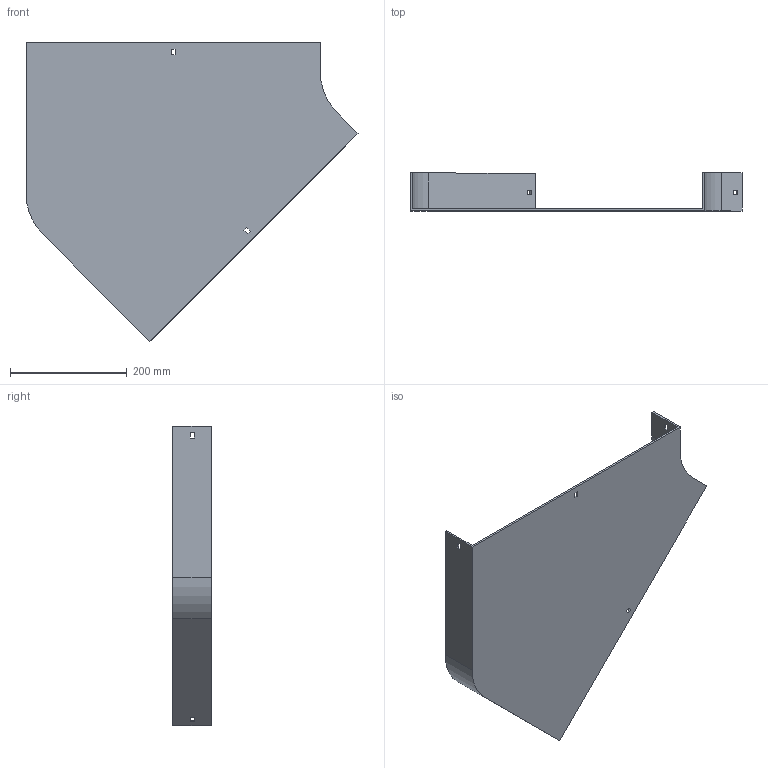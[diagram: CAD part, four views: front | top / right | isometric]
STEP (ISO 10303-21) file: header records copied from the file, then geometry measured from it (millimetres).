
FILE_DESCRIPTION (( 'STEP AP214' ), '1' );
FILE_NAME ('11B1H500.step', '2025-02-21T09:38:22', ( '' ), ( '' ), 'SwSTEP 2.0', 'SolidWorks 2023', '' );
FILE_SCHEMA (( 'AUTOMOTIVE_DESIGN' ));
Length unit declared in the file: millimetre
Products named in the file (1): 11B1H500
Bounding box: 568.64 x 65.5 x 512.45 mm (x, y, z)
Volume: 857493.8 mm3; surface area: 497796.6 mm2
Topology: 1 solids, 1 shells, 42 faces, 120 edges, 80 vertices
Faces by surface type: plane 38, cylinder 4
Entity records: 1399 total; most frequent: CARTESIAN_POINT 243, ORIENTED_EDGE 240, DIRECTION 214, EDGE_CURVE 120, VECTOR 112, LINE 112, VERTEX_POINT 80, EDGE_LOOP 54
